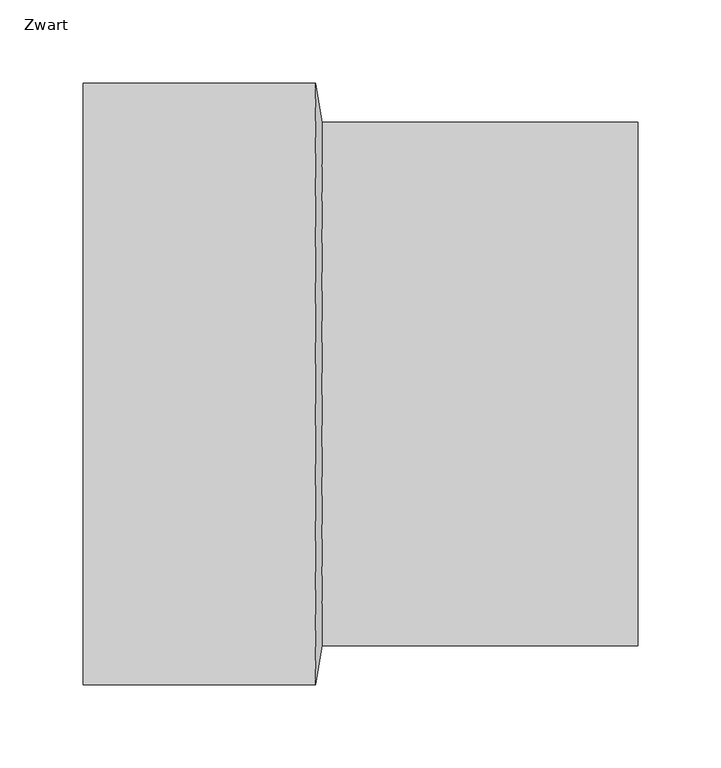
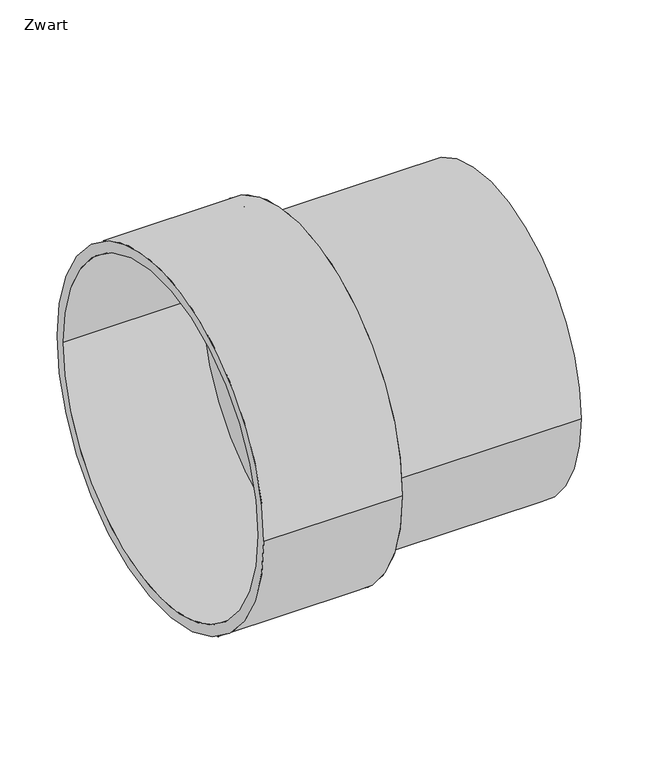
"""IFC4 building model written with IfcOpenShell, lengths in millimetres: pipe fitting geometry, NLRS_52_PIF_UN_Ultra Kyma verloop overgangsstuk MV (multiport)_Dyka : Zwart."""

from ifc_helpers import new_model, si_unit, point, frame, origin, origin_2d, place, context, project, spatial, polyline, circle_curve, trimmed, segment, composite_curve, outline, extrude, source, transform, mapped, element, save
from ifc_brep_helpers import plane_surface, revolved_surface, advanced_brep


def zwart_bb258423(model_context):
    return source(origin(), model_context, "Body", "SolidModel", [
        extrude(outline(composite_curve([segment(trimmed(circle_curve(origin_2d(), 181.0), [point((181.0, 0.0))], [point((-181.0, 0.0))], False, "CARTESIAN"), True, "CONTINUOUS"), segment(trimmed(circle_curve(origin_2d(), 181.0), [point((-181.0, 0.0))], [point((181.0, 0.0))], False, "CARTESIAN"), True, "CONTINUOUS")], self_intersect=False), holes=[composite_curve([segment(trimmed(circle_curve(origin_2d(), 170.0), [point((-170.0, 0.0))], [point((170.0, 0.0))], True, "CARTESIAN"), True, "CONTINUOUS"), segment(trimmed(circle_curve(origin_2d(), 170.0), [point((170.0, 0.0))], [point((-170.0, 0.0))], True, "CARTESIAN"), True, "CONTINUOUS")], self_intersect=False)]), frame((-140.0, 0.0, 0.0), z_axis=(1.0, 0.0, 0.0), x_axis=(0.0, 1.0, 0.0)), (0.0, 0.0, 1.0), 140.0),
        extrude(outline(composite_curve([segment(trimmed(circle_curve(origin_2d(), 157.5), [point((157.5, 0.0))], [point((-157.5, 0.0))], False, "CARTESIAN"), True, "CONTINUOUS"), segment(trimmed(circle_curve(origin_2d(), 157.5), [point((-157.5, 0.0))], [point((157.5, 0.0))], False, "CARTESIAN"), True, "CONTINUOUS")], self_intersect=False)), frame((4.0, 0.0, 0.0), z_axis=(1.0, 0.0, 0.0), x_axis=(0.0, 1.0, 0.0)), (0.0, 0.0, 1.0), 190.0),
        advanced_brep(
        [(4.0, 157.5, 0.0), (4.0, -157.5, 0.0), (0.0, 181.0, 0.0), (0.0, -181.0, 0.0)],
        [
            (0, 1, circle_curve(frame((4.0, 0.0, 0.0), z_axis=(1.0, -1.7537434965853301e-12, 0.0), x_axis=(1.7537329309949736e-12, 1.0, 0.0)), 157.5)),
            (1, 0, circle_curve(frame((4.0, 0.0, 0.0), z_axis=(1.0, -1.7537434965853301e-12, 0.0), x_axis=(-1.7537329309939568e-12, -1.0, 0.0)), 157.5)),
            (2, 3, circle_curve(frame((0.0, 0.0, 0.0), z_axis=(-1.0, 1.7537434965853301e-12, 0.0), x_axis=(-1.7537329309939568e-12, -1.0, 0.0)), 181.0)),
            (3, 2, circle_curve(frame((0.0, 0.0, 0.0), z_axis=(-1.0, 1.7537434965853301e-12, 0.0), x_axis=(1.7537329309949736e-12, 1.0, 0.0)), 181.0)),
            (2, 0),
            (1, 3),
        ],
        [
            plane_surface(frame((4.0, 0.0, 0.0), z_axis=(1.0, 0.0, 0.0), x_axis=(0.0, 0.0, 1.0))),
            plane_surface(frame((0.0, 0.0, 0.0), z_axis=(-1.0, 0.0, 0.0), x_axis=(0.0, 0.0, 1.0))),
            revolved_surface(polyline([(3.9999999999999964, -157.49999997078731, 0.0), (-6.348521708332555e-10, -181.00000000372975, 0.0)]), (30.8085106, 0.0, 0.0), (-1.0, 1.7537434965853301e-12, 0.0)),
            revolved_surface(polyline([(4.000000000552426, 157.49999996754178, 0.0), (0.0, 181.0, 0.0)]), (30.8085106, 0.0, 0.0), (-1.0, 1.7537434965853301e-12, 0.0)),
        ],
        [
            (0, [[1, 2]]),
            (1, [[3, 4]]),
            (2, [[-3, 5, -2, 6]]),
            (3, [[-4, -6, -1, -5]]),
        ],
    ),
    ])


if __name__ == "__main__":
    model = new_model("IFC4")
    model_context = context("Model", 3, world=origin())
    ifc_project = project(units=[si_unit("LENGTHUNIT", "METRE", prefix="MILLI")], contexts=[model_context])
    site = spatial("IfcSite", under=ifc_project)
    building = spatial("IfcBuilding", under=site)
    placement = place(None, origin())
    zwart_shape = zwart_bb258423(model_context)
    element("IfcPipeFitting", 1, ObjectType="NLRS_52_PIF_UN_Ultra Kyma verloop overgangsstuk MV (multiport)_Dyka : Zwart", at=placement, inside=building, context=model_context, shape_type="MappedRepresentation", body=[
        mapped(zwart_shape, transform((0.0, 0.0, 0.0), x_axis=(1.0, 0.0, 0.0), y_axis=(0.0, 1.0, 0.0), z_axis=(0.0, 0.0, 1.0))),
    ])
    save(model, "model.ifc")
